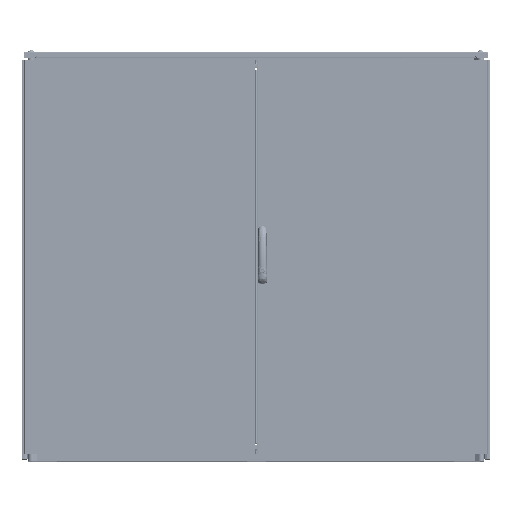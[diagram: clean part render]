
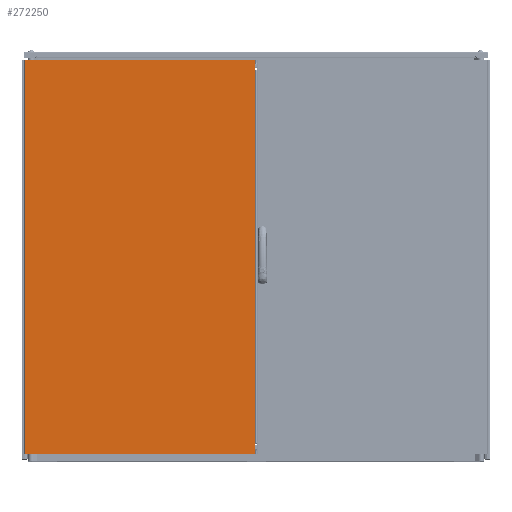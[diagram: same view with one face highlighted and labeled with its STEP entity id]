
A CAD part, top view. The second image highlights one B-rep face of the part: STEP entity #272250.
In plain terms, the highlighted planar face has unit normal (0, 0, 1).
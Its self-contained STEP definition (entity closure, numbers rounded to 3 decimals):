
#7647 = CARTESIAN_POINT ( 'NONE',  ( 0., 1357., 19. ) ) ;
#33489 = VERTEX_POINT ( 'NONE', #155232 ) ;
#57713 = CARTESIAN_POINT ( 'NONE',  ( 2.001, 3., 19. ) ) ;
#59914 = ORIENTED_EDGE ( 'NONE', *, *, #322921, .T. ) ;
#66566 = VERTEX_POINT ( 'NONE', #57713 ) ;
#67041 = DIRECTION ( 'NONE',  ( -1., 0., 0. ) ) ;
#79597 = CARTESIAN_POINT ( 'NONE',  ( 0., 3., 19. ) ) ;
#87823 = VERTEX_POINT ( 'NONE', #309862 ) ;
#93296 = AXIS2_PLACEMENT_3D ( 'NONE', #281826, #135444, #374772 ) ;
#105600 = EDGE_CURVE ( 'NONE', #66566, #33489, #111227, .T. ) ;
#111227 = LINE ( 'NONE', #79597, #237958 ) ;
#126580 = CARTESIAN_POINT ( 'NONE',  ( 2.001, 3., 19. ) ) ;
#135444 = DIRECTION ( 'NONE',  ( 0., 0., -1. ) ) ;
#136822 = VECTOR ( 'NONE', #346241, 1000. ) ;
#147652 = CARTESIAN_POINT ( 'NONE',  ( 792., 1357., 19. ) ) ;
#155232 = CARTESIAN_POINT ( 'NONE',  ( 792., 3., 19. ) ) ;
#157312 = EDGE_LOOP ( 'NONE', ( #270207, #59914, #194881, #367199 ) ) ;
#191507 = LINE ( 'NONE', #7647, #381892 ) ;
#191683 = LINE ( 'NONE', #126580, #380283 ) ;
#192002 = EDGE_CURVE ( 'NONE', #33489, #372321, #255230, .T. ) ;
#194881 = ORIENTED_EDGE ( 'NONE', *, *, #105600, .T. ) ;
#204085 = DIRECTION ( 'NONE',  ( 1., 0., 0. ) ) ;
#225553 = CARTESIAN_POINT ( 'NONE',  ( 792., 1360., 19. ) ) ;
#237958 = VECTOR ( 'NONE', #204085, 1000. ) ;
#249150 = DIRECTION ( 'NONE',  ( 0., -1., 0. ) ) ;
#255230 = LINE ( 'NONE', #225553, #136822 ) ;
#270207 = ORIENTED_EDGE ( 'NONE', *, *, #385049, .T. ) ;
#272250 = ADVANCED_FACE ( 'NONE', ( #283780 ), #370902, .F. ) ;
#281826 = CARTESIAN_POINT ( 'NONE',  ( 0., 1360., 19. ) ) ;
#283780 = FACE_OUTER_BOUND ( 'NONE', #157312, .T. ) ;
#309862 = CARTESIAN_POINT ( 'NONE',  ( 2.001, 1357., 19. ) ) ;
#322921 = EDGE_CURVE ( 'NONE', #87823, #66566, #191683, .T. ) ;
#346241 = DIRECTION ( 'NONE',  ( 0., 1., 0. ) ) ;
#367199 = ORIENTED_EDGE ( 'NONE', *, *, #192002, .T. ) ;
#370902 = PLANE ( 'NONE',  #93296 ) ;
#372321 = VERTEX_POINT ( 'NONE', #147652 ) ;
#374772 = DIRECTION ( 'NONE',  ( -1., 0., 0. ) ) ;
#380283 = VECTOR ( 'NONE', #249150, 1000. ) ;
#381892 = VECTOR ( 'NONE', #67041, 1000. ) ;
#385049 = EDGE_CURVE ( 'NONE', #372321, #87823, #191507, .T. ) ;
